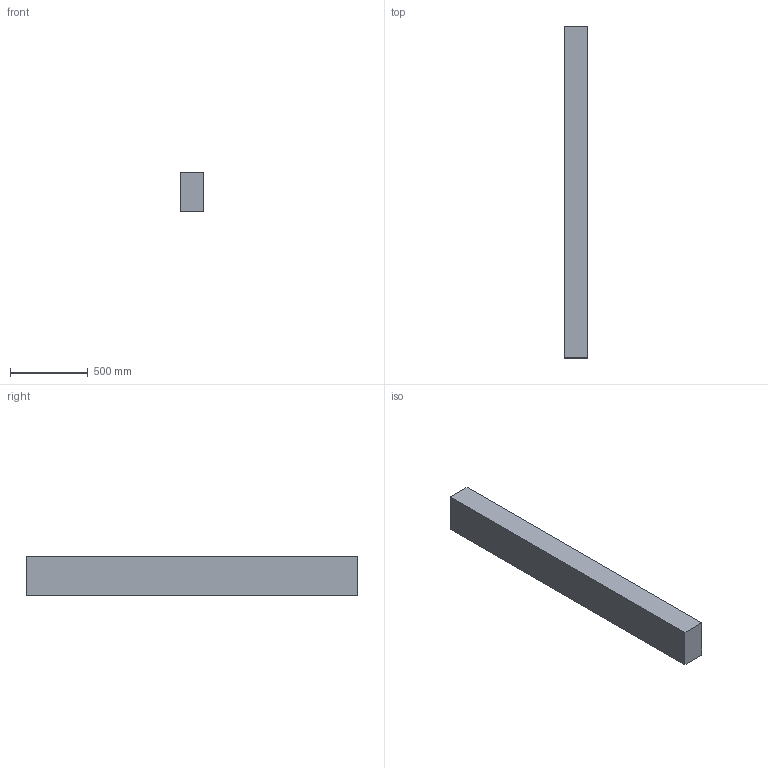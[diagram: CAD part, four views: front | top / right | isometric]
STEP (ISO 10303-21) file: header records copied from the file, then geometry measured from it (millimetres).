
FILE_DESCRIPTION(/* description */ (''),/* implementation_level */ '2;1');
FILE_NAME(/* name */ '6x10x84',/* time_stamp */ '2024-09-20T11:47:21-05:00',/* author */ (''),/* organization */ (''),/* preprocessor_version */ 'ST-DEVELOPER v19.2',/* originating_system */ 'Rhino 8.5',/* authorisation */ '');
FILE_SCHEMA (('CONFIG_CONTROL_DESIGN'));
Length unit declared in the file: inch
Products named in the file (1): Document
Bounding box: 152.4 x 2133.6 x 254 mm (x, y, z)
Volume: 82590802.6 mm3; surface area: 1811609.3 mm2
Topology: 1 solids, 1 shells, 6 faces, 12 edges, 8 vertices
Faces by surface type: plane 6
Entity records: 226 total; most frequent: CARTESIAN_POINT 40, ORIENTED_EDGE 24, EDGE_CURVE 12, B_SPLINE_CURVE_WITH_KNOTS 12, DIRECTION 10, VERTEX_POINT 8, AXIS2_PLACEMENT_3D 8, ORGANIZATION 7
